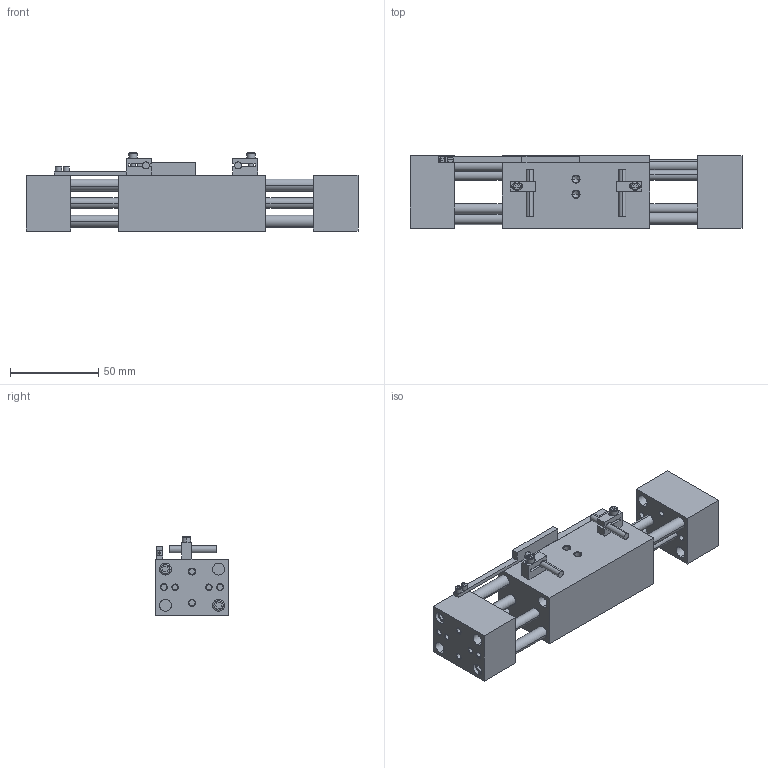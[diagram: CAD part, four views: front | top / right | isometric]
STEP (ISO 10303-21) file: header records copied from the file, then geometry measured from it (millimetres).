
FILE_DESCRIPTION (( 'STEP AP203' ), '1' );
FILE_NAME ('AGW-250-3-open.STEP', '2020-05-15T18:21:25', ( 'cad' ), ( '' ), 'SwSTEP 2.0', 'SolidWorks 2017', '' );
FILE_SCHEMA (( 'CONFIG_CONTROL_DESIGN' ));
Length unit declared in the file: inch
Products named in the file (8): AGW-250 SENSOR FLAG; AGW-250 SENSOR; AGW-250-3-open; AGW-250 PROD; AGW-250 BODY; AGW-250 SENSOR BLOCK; AGW-250 TOOL PLATE; AGW-250 GUIDE ROD
Assembly tree (16 placements, depth 2):
  AGW-250-3-open
    AGW-250 BODY
    AGW-250 TOOL PLATE  x2
    AGW-250 SENSOR BLOCK  x2
    AGW-250 SENSOR  x2
    AGW-250 PROD  x4
    AGW-250 GUIDE ROD  x4
    AGW-250 SENSOR FLAG
Bounding box: 187.96 x 41.27 x 44.45 mm (x, y, z)
Volume: 165005.6 mm3; surface area: 58666.2 mm2
Topology: 20 solids, 20 shells, 371 faces, 893 edges, 558 vertices
Faces by surface type: plane 165, cylinder 134, cone 60, torus 12
Entity records: 8085 total; most frequent: DIRECTION 1285, CARTESIAN_POINT 1265, ORIENTED_EDGE 1114, EDGE_CURVE 557, AXIS2_PLACEMENT_3D 480, VERTEX_POINT 352, LINE 325, VECTOR 325
